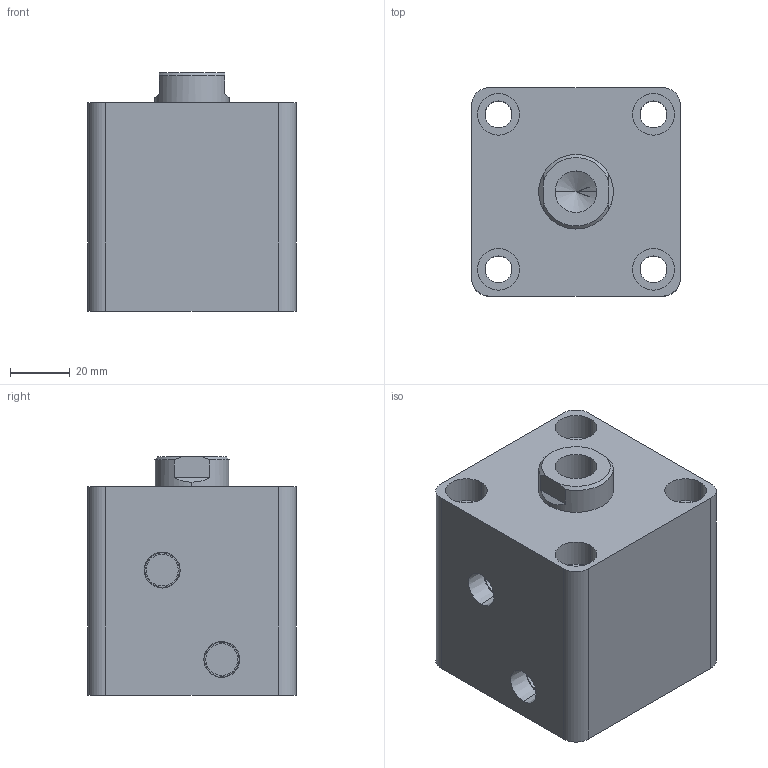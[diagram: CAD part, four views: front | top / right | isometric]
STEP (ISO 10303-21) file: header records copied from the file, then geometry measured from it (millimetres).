
FILE_DESCRIPTION (( 'STEP AP203' ), '1' );
FILE_NAME ('HTB-SD40-15N.STEP', '2019-10-07T06:47:24', ( '微软用户' ), ( '微软中国' ), 'SwSTEP 2.0', 'SolidWorks 2012', '' );
FILE_SCHEMA (( 'CONFIG_CONTROL_DESIGN' ));
Length unit declared in the file: millimetre
Products named in the file (3): HTB-SD40-15掛极; HTB-SD40-15N; HTB-SD40-15N活塞杆
Assembly tree (2 placements, depth 2):
  HTB-SD40-15N
    HTB-SD40-15掛极
    HTB-SD40-15N活塞杆
Bounding box: 70 x 70 x 80 mm (x, y, z)
Volume: 304492.1 mm3; surface area: 55285.3 mm2
Topology: 2 solids, 2 shells, 81 faces, 180 edges, 117 vertices
Faces by surface type: cylinder 42, plane 27, cone 8, torus 4
Entity records: 2603 total; most frequent: DIRECTION 444, CARTESIAN_POINT 409, ORIENTED_EDGE 356, AXIS2_PLACEMENT_3D 188, EDGE_CURVE 178, VERTEX_POINT 117, EDGE_LOOP 105, CIRCLE 102
